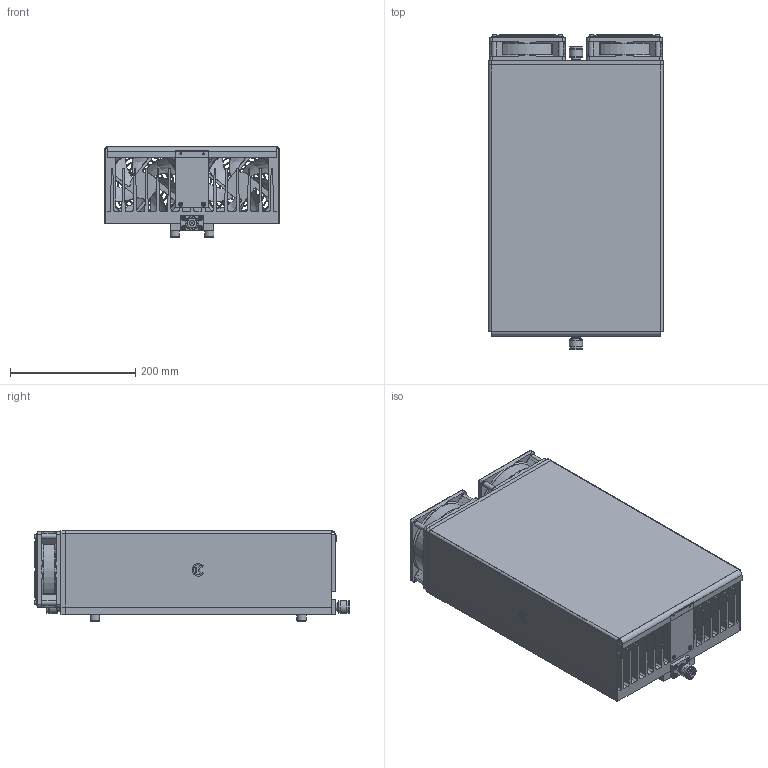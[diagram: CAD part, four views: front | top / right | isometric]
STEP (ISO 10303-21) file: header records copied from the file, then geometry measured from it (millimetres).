
FILE_DESCRIPTION(('STEP AP203'), '1');
FILE_NAME('栖闉罻 1500 鎗', '', ('UNSPECIFIED'), ('UNSPECIFIED'), 'C3D Converter', 'C3D Toolkit', '');
FILE_SCHEMA(('CONFIG_CONTROL_DESIGN'));
Length unit declared in the file: millimetre
Products named in the file (21): -01; Вентилятор 120x120x25; Вентилятор_винт 120х120х25; Вентилятор_основа 120х120х25
Assembly tree (57 placements, depth 3):
  (unnamed)
    (unnamed)
    (unnamed)
    (unnamed)
    (unnamed)
    (unnamed)
    (unnamed)
    -01
    (unnamed)
    Вентилятор 120x120x25  x2
      Вентилятор_винт 120х120х25
      Вентилятор_основа 120х120х25
    (unnamed)  x10
    -01  x6
    (unnamed)
    -01
    (unnamed)  x21
    (unnamed)  x2
    -01  x2
    (unnamed)
    -01
Bounding box: 278 x 503.15 x 144 mm (x, y, z)
Volume: 4934729 mm3; surface area: 1906078.7 mm2
Topology: 57 solids, 57 shells, 3046 faces, 8148 edges, 4966 vertices
Faces by surface type: plane 1181, bspline 816, cylinder 717, torus 192, cone 140
Full cylindrical faces by diameter (mm): 1.65 x2, 2.459 x25, 2.5 x3, 3 x22, 3.04 x2, 3.2 x2, 3.242 x8, 3.5 x8, 4.134 x16, 5 x16, 5.5 x57, 6 x1, 7 x12, 8 x1, 8.04 x2, 8.5 x20, 9 x2, 10 x17, 11.6 x2, 12.7 x2, 14.94 x2, 15 x4, 15.75 x2, 16 x4, 16.5 x2, 17.46 x2, 17.8 x2, 19.8 x6, 20 x6, 20.85 x2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
Entity records: 83373 total; most frequent: CARTESIAN_POINT 24880, ORIENTED_EDGE 9112, DIRECTION 8128, EDGE_CURVE 4556, AXIS2_PLACEMENT_3D 3116, VERTEX_POINT 3034, EDGE_LOOP 2420, FACE_BOUND 2109
